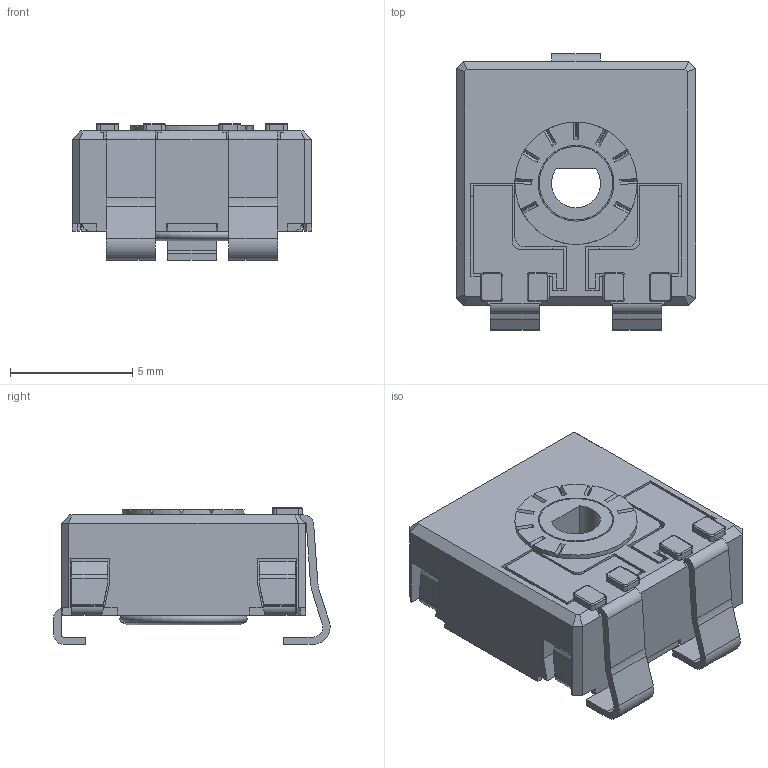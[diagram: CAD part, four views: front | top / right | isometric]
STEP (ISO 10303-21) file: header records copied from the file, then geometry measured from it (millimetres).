
FILE_DESCRIPTION(/* description */ (''),/* implementation_level */ '2;1');
FILE_NAME(/* name */ 'COMCA9DVSMD.stp',/* time_stamp */ '2026-03-30T17:18:15+02:00',/* author */ ('CEM'),/* organization */ (''),/* preprocessor_version */ 'ST-DEVELOPER v20.1',/* originating_system */ 'Autodesk Inventor 2026',/* authorisation */ '');
FILE_SCHEMA (('AUTOMOTIVE_DESIGN { 1 0 10303 214 3 1 1 }'));
Length unit declared in the file: millimetre
Products named in the file (1): COMCA9DVSMD
Bounding box: 9.8 x 11.3 x 5.6 mm (x, y, z)
Volume: 247.9 mm3; surface area: 837.4 mm2
Topology: 2 solids, 2 shells, 496 faces, 1421 edges, 903 vertices
Faces by surface type: plane 381, cylinder 79, torus 19, cone 17
Full cylindrical faces by diameter (mm): 3 x1, 3.1 x1, 4 x1, 4.8 x1, 5 x1
Entity records: 16249 total; most frequent: CARTESIAN_POINT 2879, ORIENTED_EDGE 2842, DIRECTION 2652, EDGE_CURVE 1421, LINE 1128, VECTOR 1128, VERTEX_POINT 903, AXIS2_PLACEMENT_3D 762
